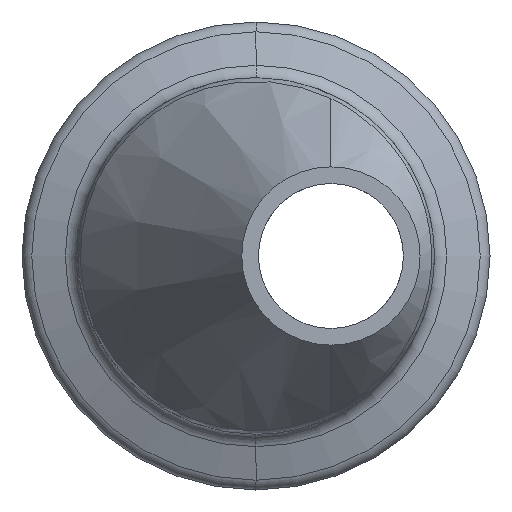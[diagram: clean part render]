
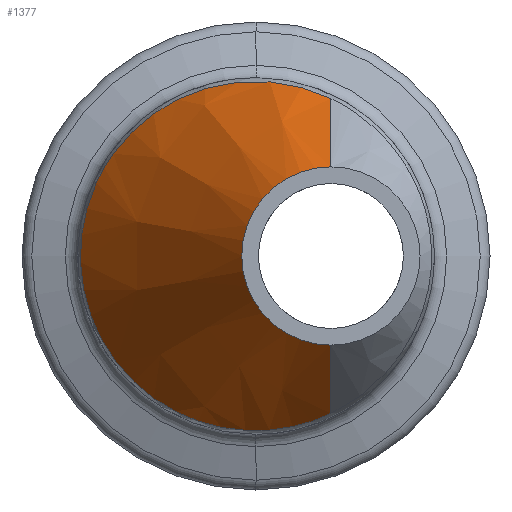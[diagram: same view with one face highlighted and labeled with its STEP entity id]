
A CAD part, left-side view. The second image highlights one B-rep face of the part: STEP entity #1377.
In plain terms, the highlighted conical face has half-angle 35 degrees and reference radius 4.763 mm.
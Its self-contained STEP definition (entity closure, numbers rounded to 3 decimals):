
#3 = ORIENTED_EDGE ( 'NONE', *, *, #522, .T. ) ;
#13 = CARTESIAN_POINT ( 'NONE',  ( -6.421, -2.383, -9.05 ) ) ;
#23 = CARTESIAN_POINT ( 'NONE',  ( -6.95, -3.21, -8.789 ) ) ;
#28 = CARTESIAN_POINT ( 'NONE',  ( -7.487, -4., -8.413 ) ) ;
#35 = CARTESIAN_POINT ( 'NONE',  ( -0.538, 9.038, -2.563 ) ) ;
#40 = VERTEX_POINT ( 'NONE', #219 ) ;
#42 = CARTESIAN_POINT ( 'NONE',  ( -0.434, 9.278, 1.484 ) ) ;
#62 = CARTESIAN_POINT ( 'NONE',  ( -0.594, 8.911, 2.971 ) ) ;
#70 = CARTESIAN_POINT ( 'NONE',  ( -0.388, 9.385, 0.469 ) ) ;
#71 = CARTESIAN_POINT ( 'NONE',  ( -6.07, -1.802, 9.148 ) ) ;
#80 = CARTESIAN_POINT ( 'NONE',  ( -0.476, 9.181, 1.993 ) ) ;
#92 = EDGE_CURVE ( 'NONE', #211, #249, #1248, .T. ) ;
#113 = CARTESIAN_POINT ( 'NONE',  ( -2.582, 4.599, -8.196 ) ) ;
#121 = CARTESIAN_POINT ( 'NONE',  ( -0.605, 8.886, -3.043 ) ) ;
#130 = CARTESIAN_POINT ( 'NONE',  ( -0.772, 8.507, -3.976 ) ) ;
#164 = CARTESIAN_POINT ( 'NONE',  ( -0.874, 8.277, -4.431 ) ) ;
#193 = CARTESIAN_POINT ( 'NONE',  ( -1.105, 7.761, -5.277 ) ) ;
#211 = VERTEX_POINT ( 'NONE', #919 ) ;
#219 = CARTESIAN_POINT ( 'NONE',  ( -7.487, -4.001, 8.413 ) ) ;
#249 = VERTEX_POINT ( 'NONE', #578 ) ;
#260 = CONICAL_SURFACE ( 'NONE', #666, 4.762, 0.611 ) ;
#263 = CARTESIAN_POINT ( 'NONE',  ( -5.546, -0.931, 9.281 ) ) ;
#299 = CARTESIAN_POINT ( 'NONE',  ( -5.641, -1.093, -9.268 ) ) ;
#362 = CARTESIAN_POINT ( 'NONE',  ( -0.763, 8.527, 3.901 ) ) ;
#369 = VECTOR ( 'NONE', #1800, 1000. ) ;
#412 = CARTESIAN_POINT ( 'NONE',  ( -0.763, 8.527, 3.901 ) ) ;
#413 = CARTESIAN_POINT ( 'NONE',  ( -5.719, -1.222, 9.246 ) ) ;
#419 = CARTESIAN_POINT ( 'NONE',  ( -12.7, -4., 0. ) ) ;
#423 = EDGE_LOOP ( 'NONE', ( #1021, #1306, #3, #502, #1526 ) ) ;
#474 = CARTESIAN_POINT ( 'NONE',  ( -5.381, -0.652, -9.312 ) ) ;
#487 = CARTESIAN_POINT ( 'NONE',  ( -3.117, 3.534, -8.655 ) ) ;
#502 = ORIENTED_EDGE ( 'NONE', *, *, #92, .T. ) ;
#522 = EDGE_CURVE ( 'NONE', #40, #211, #1782, .T. ) ;
#531 = CARTESIAN_POINT ( 'NONE',  ( -0.382, 9.397, -0.04 ) ) ;
#532 = CARTESIAN_POINT ( 'NONE',  ( -5.034, -0.052, 9.345 ) ) ;
#578 = CARTESIAN_POINT ( 'NONE',  ( -7.487, -4., -8.413 ) ) ;
#590 = CARTESIAN_POINT ( 'NONE',  ( -4.872, 0.237, -9.335 ) ) ;
#594 = CARTESIAN_POINT ( 'NONE',  ( -0.896, 8.228, 4.506 ) ) ;
#621 = CARTESIAN_POINT ( 'NONE',  ( -4.624, 0.68, -9.316 ) ) ;
#666 = AXIS2_PLACEMENT_3D ( 'NONE', #419, #956, #1682 ) ;
#706 = CARTESIAN_POINT ( 'NONE',  ( -4.7, 0.54, 9.333 ) ) ;
#732 = CARTESIAN_POINT ( 'NONE',  ( -4.141, 1.564, -9.213 ) ) ;
#739 = CARTESIAN_POINT ( 'NONE',  ( -12.7, -4., 0. ) ) ;
#742 = LINE ( 'NONE', #1394, #369 ) ;
#748 = CARTESIAN_POINT ( 'NONE',  ( -3.45, 2.88, -8.89 ) ) ;
#759 = VERTEX_POINT ( 'NONE', #1253 ) ;
#767 = CARTESIAN_POINT ( 'NONE',  ( -3.906, 2.004, -9.13 ) ) ;
#789 = CARTESIAN_POINT ( 'NONE',  ( -7.132, -3.478, 8.662 ) ) ;
#804 = CARTESIAN_POINT ( 'NONE',  ( -4.211, 1.436, 9.227 ) ) ;
#810 = CARTESIAN_POINT ( 'NONE',  ( -0.409, 9.336, -1.06 ) ) ;
#843 = CARTESIAN_POINT ( 'NONE',  ( -4.05, 1.737, 9.177 ) ) ;
#850 = CARTESIAN_POINT ( 'NONE',  ( -3.736, 2.329, 9.049 ) ) ;
#854 = AXIS2_PLACEMENT_3D ( 'NONE', #739, #1579, #1040 ) ;
#858 = CIRCLE ( 'NONE', #854, 4.762 ) ;
#876 = VERTEX_POINT ( 'NONE', #1085 ) ;
#902 = CARTESIAN_POINT ( 'NONE',  ( -1.132, 7.7, 5.352 ) ) ;
#918 = CARTESIAN_POINT ( 'NONE',  ( -0.67, 8.738, 3.444 ) ) ;
#919 = CARTESIAN_POINT ( 'NONE',  ( -0.763, 8.527, 3.901 ) ) ;
#947 = CARTESIAN_POINT ( 'NONE',  ( -3.583, 2.623, 8.97 ) ) ;
#956 = DIRECTION ( 'NONE',  ( 1., 0., 0. ) ) ;
#1011 = EDGE_CURVE ( 'NONE', #876, #759, #858, .T. ) ;
#1021 = ORIENTED_EDGE ( 'NONE', *, *, #1011, .T. ) ;
#1040 = DIRECTION ( 'NONE',  ( 0., 0., -1. ) ) ;
#1048 = CARTESIAN_POINT ( 'NONE',  ( -1.234, 7.473, -5.674 ) ) ;
#1060 = CARTESIAN_POINT ( 'NONE',  ( -1.451, 6.999, -6.23 ) ) ;
#1067 = CARTESIAN_POINT ( 'NONE',  ( -1.527, 6.834, -6.409 ) ) ;
#1085 = CARTESIAN_POINT ( 'NONE',  ( -12.7, -4., -4.762 ) ) ;
#1130 = CARTESIAN_POINT ( 'NONE',  ( -1.686, 6.491, -6.754 ) ) ;
#1133 = CARTESIAN_POINT ( 'NONE',  ( -3.284, 3.204, 8.783 ) ) ;
#1169 = CARTESIAN_POINT ( 'NONE',  ( -12.7, -4., -4.762 ) ) ;
#1177 = CARTESIAN_POINT ( 'NONE',  ( -1.769, 6.311, -6.92 ) ) ;
#1179 = DIRECTION ( 'NONE',  ( 0.819, 0., -0.574 ) ) ;
#1181 = CARTESIAN_POINT ( 'NONE',  ( -1.402, 7.105, 6.14 ) ) ;
#1204 = CARTESIAN_POINT ( 'NONE',  ( -0.44, 9.263, -1.574 ) ) ;
#1240 = CARTESIAN_POINT ( 'NONE',  ( -3.138, 3.491, 8.674 ) ) ;
#1248 = B_SPLINE_CURVE_WITH_KNOTS ( 'NONE', 3,
 ( #362, #918, #62, #80, #42, #70, #531, #810, #1204, #35, #121, #130, #164, #193, #1048, #1060, #1067, #1130, #1177, #1731, #113, #487, #1322, #748, #1561, #767, #732, #621, #590, #474, #299, #13, #23, #28 ),
 .UNSPECIFIED., .F., .F.,
 ( 4, 2, 2, 2, 2, 2, 2, 2, 2, 2, 2, 2, 2, 2, 2, 2, 4 ),
 ( 0.034, 0.035, 0.037, 0.038, 0.04, 0.042, 0.043, 0.045, 0.045, 0.046, 0.049, 0.05, 0.051, 0.052, 0.054, 0.055, 0.059 ),
 .UNSPECIFIED. ) ;
#1253 = CARTESIAN_POINT ( 'NONE',  ( -12.7, -4., 4.762 ) ) ;
#1306 = ORIENTED_EDGE ( 'NONE', *, *, #1751, .T. ) ;
#1322 = CARTESIAN_POINT ( 'NONE',  ( -3.227, 3.316, -8.739 ) ) ;
#1362 = LINE ( 'NONE', #1169, #1758 ) ;
#1377 = ADVANCED_FACE ( 'NONE', ( #1458 ), #260, .T. ) ;
#1378 = CARTESIAN_POINT ( 'NONE',  ( -2.853, 4.06, 8.427 ) ) ;
#1387 = CARTESIAN_POINT ( 'NONE',  ( -7.487, -4.001, 8.413 ) ) ;
#1394 = CARTESIAN_POINT ( 'NONE',  ( -12.7, -4., 4.762 ) ) ;
#1437 = CARTESIAN_POINT ( 'NONE',  ( -2.713, 4.342, 8.287 ) ) ;
#1453 = EDGE_CURVE ( 'NONE', #876, #249, #1362, .T. ) ;
#1458 = FACE_OUTER_BOUND ( 'NONE', #423, .T. ) ;
#1526 = ORIENTED_EDGE ( 'NONE', *, *, #1453, .F. ) ;
#1530 = CARTESIAN_POINT ( 'NONE',  ( -2.31, 5.166, 7.825 ) ) ;
#1561 = CARTESIAN_POINT ( 'NONE',  ( -3.563, 2.662, -8.956 ) ) ;
#1579 = DIRECTION ( 'NONE',  ( 1., 0., 0. ) ) ;
#1653 = CARTESIAN_POINT ( 'NONE',  ( -2.063, 5.684, 7.463 ) ) ;
#1682 = DIRECTION ( 'NONE',  ( 0., 0., -1. ) ) ;
#1731 = CARTESIAN_POINT ( 'NONE',  ( -2.199, 5.396, -7.705 ) ) ;
#1738 = CARTESIAN_POINT ( 'NONE',  ( -1.049, 7.885, 5.078 ) ) ;
#1751 = EDGE_CURVE ( 'NONE', #759, #40, #742, .T. ) ;
#1758 = VECTOR ( 'NONE', #1179, 1000. ) ;
#1779 = CARTESIAN_POINT ( 'NONE',  ( -1.61, 6.652, 6.623 ) ) ;
#1782 = B_SPLINE_CURVE_WITH_KNOTS ( 'NONE', 3,
 ( #1387, #789, #1815, #1822, #71, #413, #263, #532, #706, #804, #843, #850, #947, #1133, #1240, #1378, #1437, #1530, #1653, #1779, #1181, #902, #1738, #594, #1835, #412 ),
 .UNSPECIFIED., .F., .F.,
 ( 4, 2, 2, 2, 2, 2, 2, 2, 2, 2, 2, 2, 4 ),
 ( 0.017, 0.019, 0.02, 0.021, 0.024, 0.025, 0.026, 0.027, 0.028, 0.03, 0.032, 0.033, 0.034 ),
 .UNSPECIFIED. ) ;
#1800 = DIRECTION ( 'NONE',  ( 0.819, 0., 0.574 ) ) ;
#1815 = CARTESIAN_POINT ( 'NONE',  ( -6.777, -2.935, 8.861 ) ) ;
#1822 = CARTESIAN_POINT ( 'NONE',  ( -6.247, -2.09, 9.086 ) ) ;
#1835 = CARTESIAN_POINT ( 'NONE',  ( -0.825, 8.386, 4.207 ) ) ;
